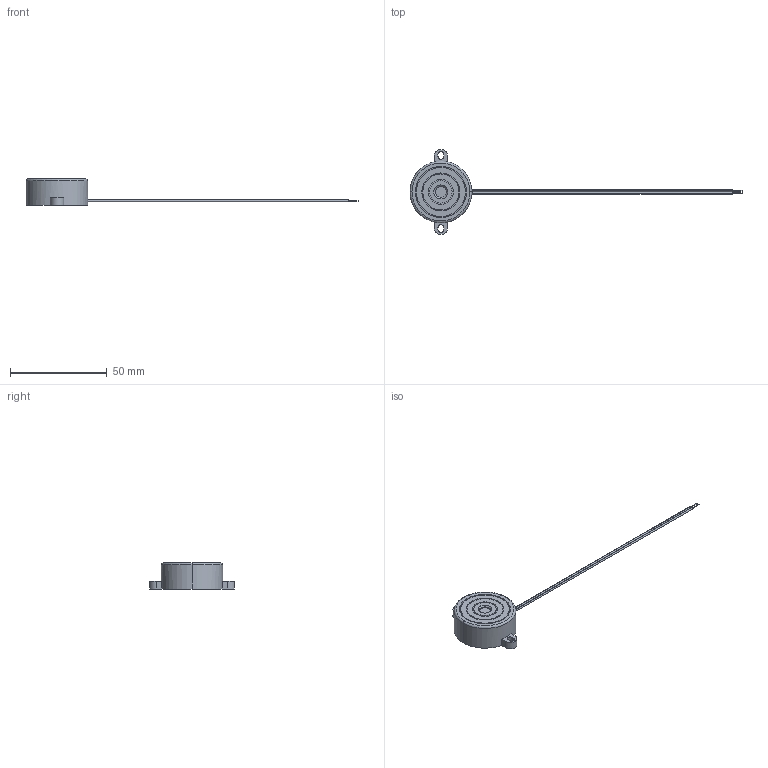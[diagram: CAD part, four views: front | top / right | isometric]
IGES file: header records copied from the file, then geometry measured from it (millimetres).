
Global section: file name: No Iges File Name specified; native system: AutoDesk Inventor R12.0; preprocessor: AutoDesk Inventor Iges Exporter R12.0; date: 20090219.144421; units: millimetre
Bounding box: 172 x 44 x 13.5 mm (x, y, z)
Volume: 3398 mm3; surface area: 8275.7 mm2
Topology: 1 solids, 1 shells, 133 faces, 349 edges, 222 vertices
Faces by surface type: plane 51, cylinder 36, revolution 21, bspline 13, torus 12
